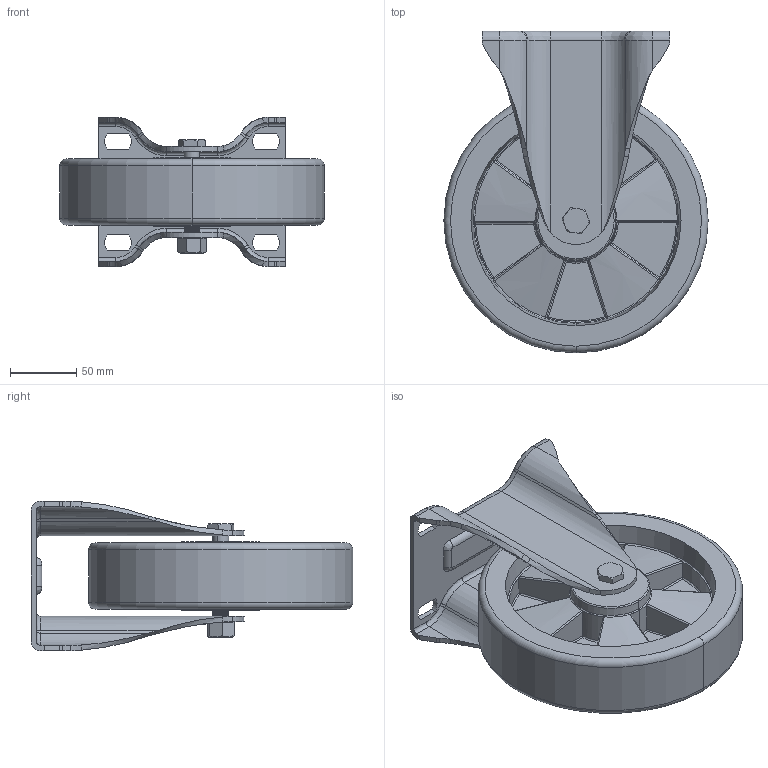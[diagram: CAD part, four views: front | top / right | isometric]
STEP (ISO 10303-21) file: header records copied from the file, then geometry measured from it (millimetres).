
FILE_DESCRIPTION (( 'STEP AP214' ), '1' );
FILE_NAME ('77108-788-86A ¶¨Ïò.STEP', '2019-12-24T23:54:31', ( 'Owner' ), ( 'Organization' ), 'SwSTEP 2.0', 'SolidWorks 2014', '' );
FILE_SCHEMA (( 'AUTOMOTIVE_DESIGN' ));
Length unit declared in the file: millimetre
Products named in the file (5): 688-10; 680-33-2; 750-34a; 77108-788-86A 隅砃; 788-86A 
Assembly tree (4 placements, depth 2):
  77108-788-86A 隅砃
    688-10
    788-86A 
    750-34a
    680-33-2
Bounding box: 200 x 243.5 x 113.01 mm (x, y, z)
Volume: 1056825.2 mm3; surface area: 231170.5 mm2
Topology: 4 solids, 4 shells, 448 faces, 1130 edges, 696 vertices
Faces by surface type: cylinder 187, plane 100, bspline 93, torus 40, cone 28
Entity records: 51763 total; most frequent: CARTESIAN_POINT 41902, ORIENTED_EDGE 2260, DIRECTION 1730, EDGE_CURVE 1130, VERTEX_POINT 696, AXIS2_PLACEMENT_3D 658, EDGE_LOOP 470, FACE_OUTER_BOUND 448
